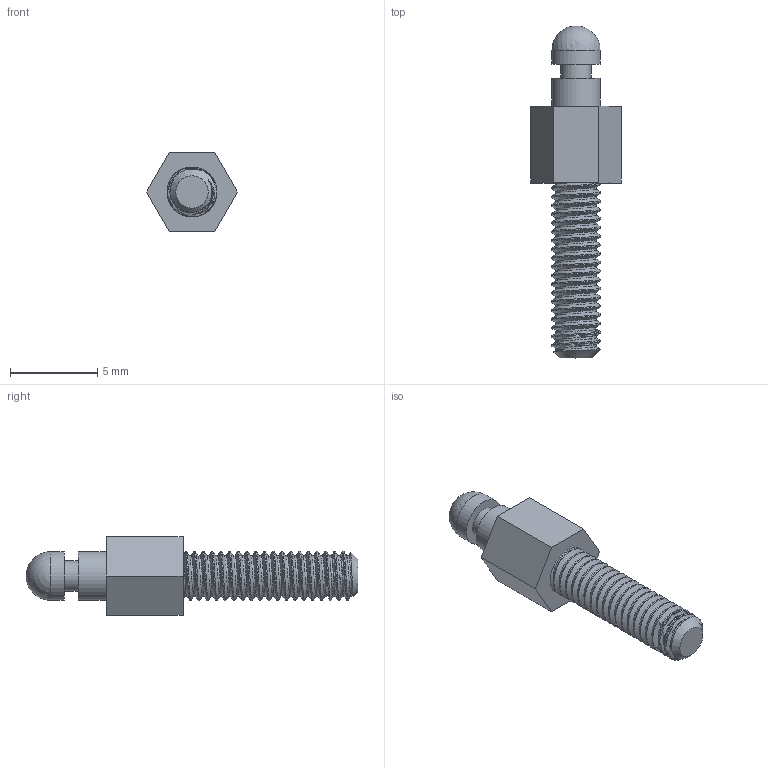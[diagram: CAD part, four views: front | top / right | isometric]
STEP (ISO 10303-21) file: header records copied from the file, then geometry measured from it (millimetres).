
FILE_DESCRIPTION (( 'STEP AP203' ), '1' );
FILE_NAME ('QLOCKPOST-2.STEP', '2026-06-16T12:29:57', ( '' ), ( '' ), 'SwSTEP 2.0', 'SolidWorks 2020', '' );
FILE_SCHEMA (( 'CONFIG_CONTROL_DESIGN' ));
Length unit declared in the file: millimetre
Products named in the file (1): QLOCKPOST-2
Bounding box: 5.2 x 18.99 x 4.5 mm (x, y, z)
Volume: 147.7 mm3; surface area: 268.7 mm2
Topology: 1 solids, 1 shells, 22 faces, 50 edges, 32 vertices
Faces by surface type: plane 12, bspline 4, cylinder 4, sphere 1, cone 1
Full cylindrical faces by diameter (mm): 1.75 x1, 2.8 x2
Entity records: 3737 total; most frequent: CARTESIAN_POINT 3248, ORIENTED_EDGE 80, DIRECTION 76, EDGE_CURVE 40, EDGE_LOOP 30, VERTEX_POINT 28, AXIS2_PLACEMENT_3D 27, FACE_OUTER_BOUND 25
